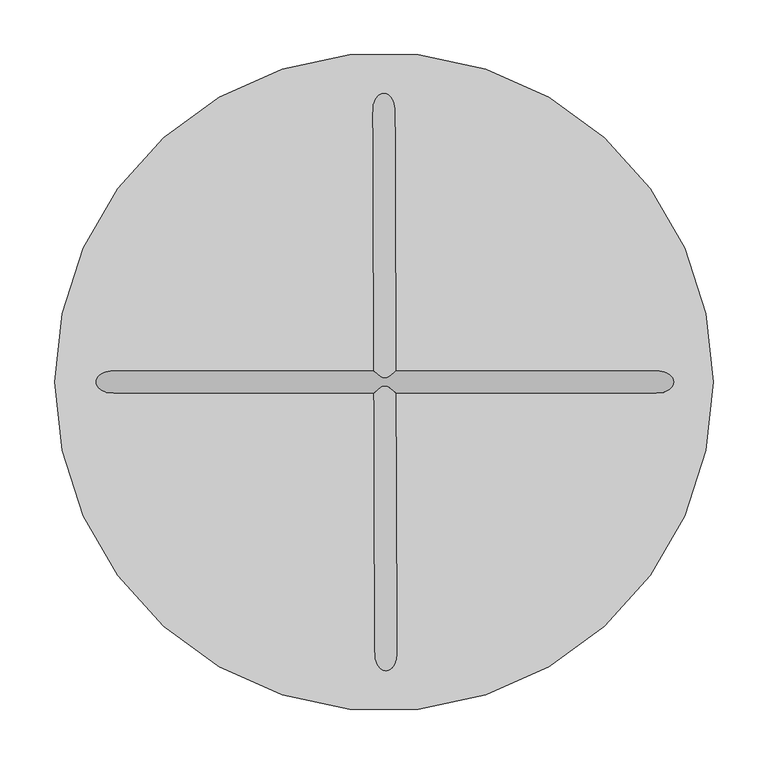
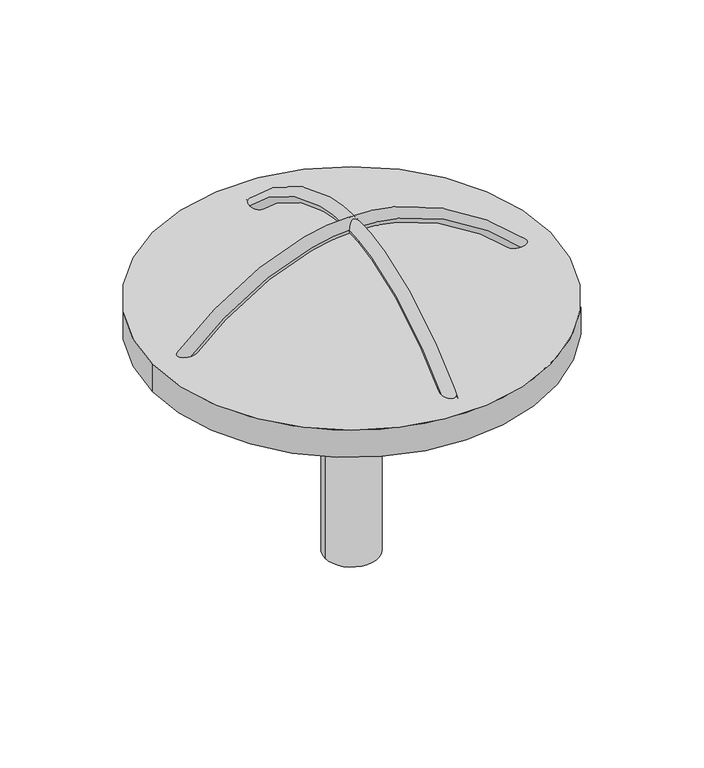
"""IFC4 building model written with IfcOpenShell, lengths in millimetres: furniture geometry, Mobile Ausstattung Spielgerät : Spielgerät."""

from ifc_helpers import new_model, si_unit, point, frame, origin, origin_2d, place, context, project, spatial, polyline, circle_curve, trimmed, segment, composite_curve, outline, extrude, source, transform, mapped, element, save
from ifc_brep_helpers import plane_surface, cylinder_surface, revolved_surface, spline_curve, spline_surface, advanced_brep


def furniture_89e2eb93(model_context):
    return source(origin(), model_context, "Body", "SolidModel", [
        advanced_brep(
        [(0.0, 0.0, 0.0), (-40.0, 0.0, 0.0), (40.0, 0.0, 0.0), (85.4415588, 0.0, 356.5685425), (-85.4415588, 0.0, 356.5685425), (0.0, 0.0, 356.5685425), (40.0, 0.0, 311.1269837), (-40.0, 0.0, 311.1269837)],
        [
            (0, 1),
            (1, 2, circle_curve(frame((0.0, 0.0, 0.0), z_axis=(0.0, 0.0, -1.0), x_axis=(-1.0, 0.0, 0.0)), 40.0)),
            (2, 0),
            (2, 1, circle_curve(frame((0.0, 0.0, 0.0), z_axis=(0.0, 0.0, -1.0), x_axis=(-1.0, 0.0, 0.0)), 40.0)),
            (3, 4, circle_curve(frame((0.0, 0.0, 356.5685425), z_axis=(0.0, 0.0, 1.0), x_axis=(-1.0, 0.0, 0.0)), 85.4415588)),
            (4, 5),
            (5, 3),
            (4, 3, circle_curve(frame((0.0, 0.0, 356.5685425), z_axis=(0.0, 0.0, 1.0), x_axis=(-1.0, 0.0, 0.0)), 85.4415588)),
            (6, 7, circle_curve(frame((0.0, 0.0, 311.1269837), z_axis=(0.0, 0.0, 1.0), x_axis=(-1.0, 0.0, 0.0)), 40.0)),
            (7, 4),
            (3, 6),
            (7, 6, circle_curve(frame((0.0, 0.0, 311.1269837), z_axis=(0.0, 0.0, 1.0), x_axis=(-1.0, 0.0, 0.0)), 40.0)),
            (1, 7),
            (6, 2),
        ],
        [
            plane_surface(frame((0.0, 0.0, 0.0), z_axis=(0.0, 0.0, -1.0), x_axis=(-1.0, 0.0, 0.0))),
            plane_surface(frame((0.0, 0.0, 356.5685425), z_axis=(0.0, 0.0, 1.0), x_axis=(-1.0, 0.0, 0.0))),
            revolved_surface(polyline([(-85.4415588, 0.0, 356.5685425), (-40.0, 0.0, 311.1269837)]), (0.0, 0.0, 2214.3150031), (0.0, 0.0, -1.0)),
            cylinder_surface(frame((0.0, 0.0, 2214.3150031), z_axis=(0.0, 0.0, -1.0), x_axis=(-1.0, 0.0, 0.0)), 40.0),
        ],
        [
            (0, [[1, 2, 3]]),
            (0, [[-3, 4, -1]]),
            (1, [[5, 6, 7]]),
            (1, [[8, -7, -6]]),
            (2, [[9, 10, -5, 11]]),
            (2, [[12, -11, -8, -10]]),
            (3, [[-2, 13, -9, 14]]),
            (3, [[-4, -14, -12, -13]]),
        ],
    ),
        extrude(outline(composite_curve([segment(trimmed(circle_curve(origin_2d(), 300.0), [point((-300.0, 0.0))], [point((300.0, 0.0))], False, "CARTESIAN"), True, "CONTINUOUS"), segment(trimmed(circle_curve(origin_2d(), 300.0), [point((300.0, 0.0))], [point((-300.0, 0.0))], False, "CARTESIAN"), True, "CONTINUOUS")], self_intersect=False)), frame((0.0, 0.0, 356.5685425), z_axis=(0.0, 0.0, 1.0), x_axis=(1.0, 0.0, 0.0)), (0.0, 0.0, 1.0), 43.4314575),
        advanced_brep(
        [(-264.2325395, 10.0, 385.876678), (-264.2325395, -10.0, 385.876678), (265.7674605, 10.0, 385.876678), (265.7674605, -10.0, 385.876678)],
        [
            (0, 1, spline_curve(3, [(-264.2325395, 10.0, 385.876678), (-262.381338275, 10.0, 384.025476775), (-260.53750615, 8.918058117, 382.18164465), (-257.92757285, 5.224077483, 379.57171135), (-257.1614717, 2.61203875, 378.8056102), (-257.1614717, -2.61203875, 378.8056102), (-257.92757285, -5.224077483, 379.57171135), (-260.53750615, -8.918058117, 382.18164465), (-262.381338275, -10.0, 384.025476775), (-264.2325395, -10.0, 385.876678)], [4, 2, 2, 2, 4], [0.0, 0.25, 0.5, 0.75, 1.0])),
            (1, 0, spline_curve(3, [(-264.2325395, -10.0, 385.876678), (-266.083740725, -10.0, 387.727879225), (-267.92757285, -8.918058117, 389.57171135), (-270.53750615, -5.224077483, 392.18164465), (-271.3036073, -2.61203875, 392.9477458), (-271.3036073, 2.61203875, 392.9477458), (-270.53750615, 5.224077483, 392.18164465), (-267.92757285, 8.918058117, 389.57171135), (-266.083740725, 10.0, 387.727879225), (-264.2325395, 10.0, 385.876678)], [4, 2, 2, 2, 4], [0.0, 0.25, 0.5, 0.75, 1.0])),
            (2, 3, spline_curve(3, [(265.7674605, 10.0, 385.876678), (267.618661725, 10.0, 387.727879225), (269.46249385, 8.918058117, 389.57171135), (272.07242715, 5.224077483, 392.18164465), (272.8385283, 2.61203875, 392.9477458), (272.8385283, -2.61203875, 392.9477458), (272.07242715, -5.224077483, 392.18164465), (269.46249385, -8.918058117, 389.57171135), (267.618661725, -10.0, 387.727879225), (265.7674605, -10.0, 385.876678)], [4, 2, 2, 2, 4], [0.0, 0.25, 0.5, 0.75, 1.0])),
            (3, 2, spline_curve(3, [(265.7674605, -10.0, 385.876678), (263.916259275, -10.0, 384.025476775), (262.07242715, -8.918058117, 382.18164465), (259.46249385, -5.224077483, 379.57171135), (258.6963927, -2.61203875, 378.8056102), (258.6963927, 2.61203875, 378.8056102), (259.46249385, 5.224077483, 379.57171135), (262.07242715, 8.918058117, 382.18164465), (263.916259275, 10.0, 384.025476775), (265.7674605, 10.0, 385.876678)], [4, 2, 2, 2, 4], [0.0, 0.25, 0.5, 0.75, 1.0])),
            (0, 2, spline_curve(3, [(-264.2325395, 10.0, 385.876678), (-220.065872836, 10.0, 430.043344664), (-175.899206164, 10.0, 463.168344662), (-109.649206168, 10.0, 496.293344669), (-87.565872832, 10.0, 504.574594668), (-43.399206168, 10.0, 515.616261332), (-21.315872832, 10.0, 518.376678), (22.850793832, 10.0, 518.376678), (44.934127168, 10.0, 515.616261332), (89.100793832, 10.0, 504.574594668), (111.184127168, 10.0, 496.293344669), (177.434127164, 10.0, 463.168344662), (221.600793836, 10.0, 430.043344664), (265.7674605, 10.0, 385.876678)], [4, 2, 2, 2, 2, 2, 4], [0.0, 0.3421858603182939, 0.5132787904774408, 0.6843717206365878, 0.8554646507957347, 1.0265575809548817, 1.3687434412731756])),
            (3, 1, spline_curve(3, [(265.7674605, -10.0, 385.876678), (221.600793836, -10.0, 430.043344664), (177.434127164, -10.0, 463.168344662), (111.184127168, -10.0, 496.293344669), (89.100793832, -10.0, 504.574594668), (44.934127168, -10.0, 515.616261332), (22.850793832, -10.0, 518.376678), (-21.315872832, -10.0, 518.376678), (-43.399206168, -10.0, 515.616261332), (-87.565872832, -10.0, 504.574594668), (-109.649206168, -10.0, 496.293344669), (-175.899206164, -10.0, 463.168344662), (-220.065872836, -10.0, 430.043344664), (-264.2325395, -10.0, 385.876678)], [4, 2, 2, 2, 2, 2, 4], [0.0, 0.3421858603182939, 0.5132787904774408, 0.6843717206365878, 0.8554646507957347, 1.0265575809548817, 1.3687434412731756])),
        ],
        [
            plane_surface(frame((-264.2325395, 0.0, 385.876678), z_axis=(-0.7071067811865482, 0.0, -0.7071067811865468), x_axis=(0.0, -1.0, 0.0))),
            plane_surface(frame((265.7674605, 0.0, 385.876678), z_axis=(0.7071067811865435, 0.0, -0.7071067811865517), x_axis=(0.0, -1.0, 0.0))),
            spline_surface(3, 3, [[(-264.2325395, 10.0, 385.876678), (-262.381338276, 10.0, 384.025476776), (-260.537506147, 8.918058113, 382.181644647), (-257.927572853, 5.224077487, 379.571711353), (-257.1614717, 2.61203875, 378.8056102), (-257.1614717, -2.61203875, 378.8056102), (-257.927572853, -5.224077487, 379.571711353), (-260.537506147, -8.918058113, 382.181644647), (-262.381338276, -10.0, 384.025476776), (-264.2325395, -10.0, 385.876678)], [(-220.065872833, 10.0, 430.043344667), (-218.368938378, 10.0, 428.037876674), (-216.678423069, 8.918058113, 426.040727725), (-214.286655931, 5.224077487, 423.212628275), (-213.584060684, 2.61203875, 422.383021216), (-213.584060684, -2.61203875, 422.383021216), (-214.286655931, -5.224077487, 423.212628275), (-216.678423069, -8.918058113, 426.040727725), (-218.368938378, -10.0, 428.037876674), (-220.065872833, -10.0, 430.043344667)], [(-175.899206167, 10.0, 463.168344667), (-174.416189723, 10.0, 460.98284675), (-172.940049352, 8.918058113, 458.802786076), (-170.847845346, 5.224077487, 455.722221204), (-170.234914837, 2.61203875, 454.816224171), (-170.234914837, -2.61203875, 454.816224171), (-170.847845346, -5.224077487, 455.722221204), (-172.940049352, -8.918058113, 458.802786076), (-174.416189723, -10.0, 460.98284675), (-175.899206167, -10.0, 463.168344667)], [(-109.649206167, 10.0, 496.293344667), (-108.634510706, 10.0, 493.873686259), (-107.623368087, 8.918058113, 491.465291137), (-106.193469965, 5.224077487, 488.053573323), (-105.773147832, 2.61203875, 487.052997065), (-105.773147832, -2.61203875, 487.052997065), (-106.193469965, -5.224077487, 488.053573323), (-107.623368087, -8.918058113, 491.465291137), (-108.634510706, -10.0, 493.873686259), (-109.649206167, -10.0, 496.293344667)], [(-87.565872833, 10.0, 504.574594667), (-86.731713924, 10.0, 502.084568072), (-85.901259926, 8.918058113, 499.60412528), (-84.724345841, 5.224077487, 496.09375493), (-84.379550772, 2.61203875, 495.063082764), (-84.379550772, -2.61203875, 495.063082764), (-84.724345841, -5.224077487, 496.09375493), (-85.901259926, -8.918058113, 499.60412528), (-86.731713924, -10.0, 502.084568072), (-87.565872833, -10.0, 504.574594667)], [(-43.399206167, 10.0, 515.616261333), (-42.963451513, 10.0, 513.026633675), (-42.529047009, 8.918058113, 510.447642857), (-41.915561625, 5.224077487, 506.796415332), (-41.734815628, 2.61203875, 505.724923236), (-41.734815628, -2.61203875, 505.724923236), (-41.915561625, -5.224077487, 506.796415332), (-42.529047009, -8.918058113, 510.447642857), (-42.963451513, -10.0, 513.026633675), (-43.399206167, -10.0, 515.616261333)], [(-21.315872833, 10.0, 518.376678), (-21.097706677, 10.0, 515.758684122), (-20.881688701, 8.918058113, 513.151111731), (-20.573155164, 5.224077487, 509.460108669), (-20.483677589, 2.61203875, 508.376678), (-20.483677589, -2.61203875, 508.376678), (-20.573155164, -5.224077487, 509.460108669), (-20.881688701, -8.918058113, 513.151111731), (-21.097706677, -10.0, 515.758684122), (-21.315872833, -10.0, 518.376678)], [(22.850793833, 10.0, 518.376678), (22.632627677, 10.0, 515.758684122), (22.416609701, 8.918058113, 513.151111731), (22.108076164, 5.224077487, 509.460108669), (22.018598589, 2.61203875, 508.376678), (22.018598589, -2.61203875, 508.376678), (22.108076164, -5.224077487, 509.460108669), (22.416609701, -8.918058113, 513.151111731), (22.632627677, -10.0, 515.758684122), (22.850793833, -10.0, 518.376678)], [(44.934127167, 10.0, 515.616261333), (44.498372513, 10.0, 513.026633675), (44.063968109, 8.918058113, 510.447642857), (43.450482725, 5.224077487, 506.796415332), (43.269736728, 2.61203875, 505.724923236), (43.269736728, -2.61203875, 505.724923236), (43.450482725, -5.224077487, 506.796415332), (44.063968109, -8.918058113, 510.447642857), (44.498372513, -10.0, 513.026633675), (44.934127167, -10.0, 515.616261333)], [(89.100793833, 10.0, 504.574594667), (88.266634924, 10.0, 502.084568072), (87.436181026, 8.918058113, 499.60412528), (86.259266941, 5.224077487, 496.09375493), (85.914471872, 2.61203875, 495.063082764), (85.914471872, -2.61203875, 495.063082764), (86.259266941, -5.224077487, 496.09375493), (87.436181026, -8.918058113, 499.60412528), (88.266634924, -10.0, 502.084568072), (89.100793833, -10.0, 504.574594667)], [(111.184127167, 10.0, 496.293344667), (110.169431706, 10.0, 493.873686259), (109.158289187, 8.918058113, 491.465291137), (107.728391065, 5.224077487, 488.053573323), (107.308068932, 2.61203875, 487.052997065), (107.308068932, -2.61203875, 487.052997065), (107.728391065, -5.224077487, 488.053573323), (109.158289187, -8.918058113, 491.465291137), (110.169431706, -10.0, 493.873686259), (111.184127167, -10.0, 496.293344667)], [(177.434127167, 10.0, 463.168344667), (175.951110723, 10.0, 460.98284675), (174.474970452, 8.918058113, 458.802786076), (172.382766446, 5.224077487, 455.722221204), (171.769835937, 2.61203875, 454.816224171), (171.769835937, -2.61203875, 454.816224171), (172.382766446, -5.224077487, 455.722221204), (174.474970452, -8.918058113, 458.802786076), (175.951110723, -10.0, 460.98284675), (177.434127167, -10.0, 463.168344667)], [(221.600793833, 10.0, 430.043344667), (219.903859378, 10.0, 428.037876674), (218.213344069, 8.918058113, 426.040727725), (215.821576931, 5.224077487, 423.212628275), (215.118981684, 2.61203875, 422.383021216), (215.118981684, -2.61203875, 422.383021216), (215.821576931, -5.224077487, 423.212628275), (218.213344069, -8.918058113, 426.040727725), (219.903859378, -10.0, 428.037876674), (221.600793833, -10.0, 430.043344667)], [(265.7674605, 10.0, 385.876678), (263.916259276, 10.0, 384.025476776), (262.072427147, 8.918058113, 382.181644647), (259.462493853, 5.224077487, 379.571711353), (258.6963927, 2.61203875, 378.8056102), (258.6963927, -2.61203875, 378.8056102), (259.462493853, -5.224077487, 379.571711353), (262.072427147, -8.918058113, 382.181644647), (263.916259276, -10.0, 384.025476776), (265.7674605, -10.0, 385.876678)]], [4, 2, 2, 2, 2, 2, 4], [4, 2, 2, 2, 4], [0.0, 0.3421858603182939, 0.5132787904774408, 0.6843717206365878, 0.8554646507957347, 1.0265575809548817, 1.3687434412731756], [0.0, 0.25, 0.5, 0.75, 1.0]),
            spline_surface(3, 3, [[(-264.2325395, -10.0, 385.876678), (-266.083740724, -10.0, 387.727879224), (-267.927572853, -8.918058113, 389.571711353), (-270.537506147, -5.224077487, 392.181644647), (-271.3036073, -2.61203875, 392.9477458), (-271.3036073, 2.61203875, 392.9477458), (-270.537506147, 5.224077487, 392.181644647), (-267.927572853, 8.918058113, 389.571711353), (-266.083740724, 10.0, 387.727879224), (-264.2325395, 10.0, 385.876678)], [(-220.065872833, -10.0, 430.043344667), (-221.762807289, -10.0, 432.04881266), (-223.453322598, -8.918058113, 434.045961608), (-225.845089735, -5.224077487, 436.874061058), (-226.547684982, -2.61203875, 437.703668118), (-226.547684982, 2.61203875, 437.703668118), (-225.845089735, 5.224077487, 436.874061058), (-223.453322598, 8.918058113, 434.045961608), (-221.762807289, 10.0, 432.04881266), (-220.065872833, 10.0, 430.043344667)], [(-175.899206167, -10.0, 463.168344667), (-177.38222261, -10.0, 465.353842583), (-178.858362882, -8.918058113, 467.533903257), (-180.950566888, -5.224077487, 470.614468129), (-181.563497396, -2.61203875, 471.520465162), (-181.563497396, 2.61203875, 471.520465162), (-180.950566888, 5.224077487, 470.614468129), (-178.858362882, 8.918058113, 467.533903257), (-177.38222261, 10.0, 465.353842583), (-175.899206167, 10.0, 463.168344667)], [(-109.649206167, -10.0, 496.293344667), (-110.663901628, -10.0, 498.713003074), (-111.675044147, -8.918058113, 501.121398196), (-113.104942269, -5.224077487, 504.53311601), (-113.525264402, -2.61203875, 505.533692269), (-113.525264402, 2.61203875, 505.533692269), (-113.104942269, 5.224077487, 504.53311601), (-111.675044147, 8.918058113, 501.121398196), (-110.663901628, 10.0, 498.713003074), (-109.649206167, 10.0, 496.293344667)], [(-87.565872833, -10.0, 504.574594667), (-88.400031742, -10.0, 507.064621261), (-89.230485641, -8.918058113, 509.545064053), (-90.407399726, -5.224077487, 513.055434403), (-90.752194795, -2.61203875, 514.08610657), (-90.752194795, 2.61203875, 514.08610657), (-90.407399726, 5.224077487, 513.055434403), (-89.230485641, 8.918058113, 509.545064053), (-88.400031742, 10.0, 507.064621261), (-87.565872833, 10.0, 504.574594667)], [(-43.399206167, -10.0, 515.616261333), (-43.834960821, -10.0, 518.205888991), (-44.269365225, -8.918058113, 520.784879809), (-44.882850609, -5.224077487, 524.436107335), (-45.063596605, -2.61203875, 525.50759943), (-45.063596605, 2.61203875, 525.50759943), (-44.882850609, 5.224077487, 524.436107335), (-44.269365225, 8.918058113, 520.784879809), (-43.834960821, 10.0, 518.205888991), (-43.399206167, 10.0, 515.616261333)], [(-21.315872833, -10.0, 518.376678), (-21.53403899, -10.0, 520.994671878), (-21.750056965, -8.918058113, 523.602244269), (-22.058590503, -5.224077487, 527.293247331), (-22.148068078, -2.61203875, 528.376678), (-22.148068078, 2.61203875, 528.376678), (-22.058590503, 5.224077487, 527.293247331), (-21.750056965, 8.918058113, 523.602244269), (-21.53403899, 10.0, 520.994671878), (-21.315872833, 10.0, 518.376678)], [(22.850793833, -10.0, 518.376678), (23.06895999, -10.0, 520.994671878), (23.284977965, -8.918058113, 523.602244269), (23.593511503, -5.224077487, 527.293247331), (23.682989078, -2.61203875, 528.376678), (23.682989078, 2.61203875, 528.376678), (23.593511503, 5.224077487, 527.293247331), (23.284977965, 8.918058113, 523.602244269), (23.06895999, 10.0, 520.994671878), (22.850793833, 10.0, 518.376678)], [(44.934127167, -10.0, 515.616261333), (45.369881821, -10.0, 518.205888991), (45.804286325, -8.918058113, 520.784879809), (46.417771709, -5.224077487, 524.436107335), (46.598517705, -2.61203875, 525.50759943), (46.598517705, 2.61203875, 525.50759943), (46.417771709, 5.224077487, 524.436107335), (45.804286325, 8.918058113, 520.784879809), (45.369881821, 10.0, 518.205888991), (44.934127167, 10.0, 515.616261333)], [(89.100793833, -10.0, 504.574594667), (89.934952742, -10.0, 507.064621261), (90.765406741, -8.918058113, 509.545064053), (91.942320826, -5.224077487, 513.055434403), (92.287115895, -2.61203875, 514.08610657), (92.287115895, 2.61203875, 514.08610657), (91.942320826, 5.224077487, 513.055434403), (90.765406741, 8.918058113, 509.545064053), (89.934952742, 10.0, 507.064621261), (89.100793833, 10.0, 504.574594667)], [(111.184127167, -10.0, 496.293344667), (112.198822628, -10.0, 498.713003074), (113.209965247, -8.918058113, 501.121398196), (114.639863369, -5.224077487, 504.53311601), (115.060185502, -2.61203875, 505.533692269), (115.060185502, 2.61203875, 505.533692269), (114.639863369, 5.224077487, 504.53311601), (113.209965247, 8.918058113, 501.121398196), (112.198822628, 10.0, 498.713003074), (111.184127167, 10.0, 496.293344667)], [(177.434127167, -10.0, 463.168344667), (178.91714361, -10.0, 465.353842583), (180.393283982, -8.918058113, 467.533903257), (182.485487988, -5.224077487, 470.614468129), (183.098418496, -2.61203875, 471.520465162), (183.098418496, 2.61203875, 471.520465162), (182.485487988, 5.224077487, 470.614468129), (180.393283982, 8.918058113, 467.533903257), (178.91714361, 10.0, 465.353842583), (177.434127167, 10.0, 463.168344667)], [(221.600793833, -10.0, 430.043344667), (223.297728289, -10.0, 432.04881266), (224.988243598, -8.918058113, 434.045961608), (227.380010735, -5.224077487, 436.874061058), (228.082605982, -2.61203875, 437.703668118), (228.082605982, 2.61203875, 437.703668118), (227.380010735, 5.224077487, 436.874061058), (224.988243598, 8.918058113, 434.045961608), (223.297728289, 10.0, 432.04881266), (221.600793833, 10.0, 430.043344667)], [(265.7674605, -10.0, 385.876678), (267.618661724, -10.0, 387.727879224), (269.462493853, -8.918058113, 389.571711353), (272.072427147, -5.224077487, 392.181644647), (272.8385283, -2.61203875, 392.9477458), (272.8385283, 2.61203875, 392.9477458), (272.072427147, 5.224077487, 392.181644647), (269.462493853, 8.918058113, 389.571711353), (267.618661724, 10.0, 387.727879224), (265.7674605, 10.0, 385.876678)]], [4, 2, 2, 2, 2, 2, 4], [4, 2, 2, 2, 4], [0.0, 0.3421858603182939, 0.5132787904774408, 0.6843717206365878, 0.8554646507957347, 1.0265575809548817, 1.3687434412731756], [0.0, 0.25, 0.5, 0.75, 1.0]),
        ],
        [
            (0, [[1, 2]]),
            (1, [[3, 4]]),
            (2, [[-1, 5, -4, 6]]),
            (3, [[-2, -6, -3, -5]]),
        ],
    ),
        advanced_brep(
        [(-8.2571013, -265.0978635, 385.876678), (11.7427633, -265.0242506, 385.876678), (-10.2078422, 264.8985465, 385.876678), (9.7920223, 264.9721594, 385.876678)],
        [
            (0, 1, spline_curve(3, [(-8.2571013, -265.0978635, 385.876678), (-8.263914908, -263.246674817, 384.025476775), (-7.188766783, -261.398872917, 382.18164465), (-3.504417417, -258.775361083, 379.57171135), (-0.895216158, -257.999651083, 378.8056102), (4.328825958, -257.980423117, 378.8056102), (6.943666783, -258.736905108, 379.57171135), (10.647228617, -261.333224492, 382.18164465), (11.735949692, -263.173061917, 384.025476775), (11.7427633, -265.0242506, 385.876678)], [4, 2, 2, 2, 4], [0.0, 0.25, 0.5, 0.75, 1.0])),
            (1, 0, spline_curve(3, [(11.7427633, -265.0242506, 385.876678), (11.749576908, -266.875439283, 387.727879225), (10.674428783, -268.723241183, 389.57171135), (6.990079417, -271.346753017, 392.18164465), (4.380878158, -272.122463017, 392.9477458), (-0.843163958, -272.141690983, 392.9477458), (-3.458004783, -271.385208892, 392.18164465), (-7.161566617, -268.788889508, 389.57171135), (-8.250287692, -266.949052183, 387.727879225), (-8.2571013, -265.0978635, 385.876678)], [4, 2, 2, 2, 4], [0.0, 0.25, 0.5, 0.75, 1.0])),
            (2, 3, spline_curve(3, [(-10.2078422, 264.8985465, 385.876678), (-10.214655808, 266.749735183, 387.727879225), (-9.139507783, 268.597537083, 389.57171135), (-5.455158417, 271.221048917, 392.18164465), (-2.845957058, 271.996758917, 392.9477458), (2.378085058, 272.015986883, 392.9477458), (4.992925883, 271.259504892, 392.18164465), (8.696487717, 268.663185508, 389.57171135), (9.785208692, 266.823348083, 387.727879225), (9.7920223, 264.9721594, 385.876678)], [4, 2, 2, 2, 4], [0.0, 0.25, 0.5, 0.75, 1.0])),
            (3, 2, spline_curve(3, [(9.7920223, 264.9721594, 385.876678), (9.798835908, 263.120970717, 384.025476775), (8.723687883, 261.273168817, 382.18164465), (5.039338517, 258.649656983, 379.57171135), (2.430137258, 257.873946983, 378.8056102), (-2.793904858, 257.854719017, 378.8056102), (-5.408745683, 258.611201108, 379.57171135), (-9.112307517, 261.207520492, 382.18164465), (-10.201028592, 263.047357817, 384.025476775), (-10.2078422, 264.8985465, 385.876678)], [4, 2, 2, 2, 4], [0.0, 0.25, 0.5, 0.75, 1.0])),
            (0, 2, spline_curve(3, [(-8.2571013, -265.0978635, 385.876678), (-8.419663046, -220.931495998, 430.043344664), (-8.582224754, -176.765128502, 463.168344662), (-8.826067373, -110.515577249, 496.293344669), (-8.907348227, -88.432393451, 504.574594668), (-9.069909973, -44.266025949, 515.616261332), (-9.151190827, -22.182842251, 518.376678), (-9.313752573, 21.983525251, 518.376678), (-9.395033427, 44.066709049, 515.616261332), (-9.557595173, 88.233076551, 504.574594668), (-9.638876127, 110.316260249, 496.293344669), (-9.882718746, 176.565811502, 463.168344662), (-10.045280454, 220.732178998, 430.043344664), (-10.2078422, 264.8985465, 385.876678)], [4, 2, 2, 2, 2, 2, 4], [0.0, 0.3421858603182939, 0.5132787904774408, 0.6843717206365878, 0.8554646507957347, 1.0265575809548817, 1.3687434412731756])),
            (3, 1, spline_curve(3, [(9.7920223, 264.9721594, 385.876678), (9.954584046, 220.805791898, 430.043344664), (10.117145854, 176.639424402, 463.168344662), (10.360988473, 110.389873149, 496.293344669), (10.442269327, 88.306689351, 504.574594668), (10.604831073, 44.140321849, 515.616261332), (10.686111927, 22.057138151, 518.376678), (10.848673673, -22.109229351, 518.376678), (10.929954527, -44.192413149, 515.616261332), (11.092516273, -88.358780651, 504.574594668), (11.173797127, -110.441964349, 496.293344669), (11.417639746, -176.691515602, 463.168344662), (11.580201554, -220.857883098, 430.043344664), (11.7427633, -265.0242506, 385.876678)], [4, 2, 2, 2, 2, 2, 4], [0.0, 0.3421858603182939, 0.5132787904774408, 0.6843717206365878, 0.8554646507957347, 1.0265575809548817, 1.3687434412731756])),
        ],
        [
            plane_surface(frame((1.742831, -265.061057, 385.876678), z_axis=(0.002602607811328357, -0.7071019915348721, -0.7071067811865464), x_axis=(0.9999932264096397, 0.00368064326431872, 0.0))),
            plane_surface(frame((-0.2079099, 264.935353, 385.876678), z_axis=(-0.0026026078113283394, 0.7071019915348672, -0.7071067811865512), x_axis=(0.9999932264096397, 0.00368064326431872, 0.0))),
            spline_surface(3, 3, [[(-8.2571013, -265.0978635, 385.876678), (-8.263914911, -263.246674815, 384.025476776), (-7.188766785, -261.39887292, 382.181644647), (-3.504417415, -258.77536108, 379.571711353), (-0.895216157, -257.999651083, 378.8056102), (4.328825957, -257.980423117, 378.8056102), (6.943666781, -258.736905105, 379.571711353), (10.647228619, -261.333224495, 382.181644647), (11.735949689, -263.173061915, 384.025476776), (11.7427633, -265.0242506, 385.876678)], [(-8.419663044, -220.931496, 430.043344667), (-8.425908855, -219.234573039, 428.037876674), (-7.350196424, -217.540086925, 426.040727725), (-3.665044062, -215.134739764, 423.212628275), (-1.055609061, -214.422535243, 422.383021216), (4.168433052, -214.403307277, 422.383021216), (6.783040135, -215.096283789, 423.212628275), (10.48579898, -217.4744385, 426.040727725), (11.573955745, -219.160960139, 428.037876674), (11.580201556, -220.8578831, 430.043344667)], [(-8.582224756, -176.7651285, 463.168344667), (-8.58768321, -175.282122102, 460.98284675), (-7.511181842, -173.802009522, 458.802786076), (-3.824926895, -171.696223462, 455.722221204), (-1.215161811, -171.073683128, 454.816224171), (4.008880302, -171.054455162, 454.816224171), (6.623157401, -171.657767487, 455.722221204), (10.324813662, -173.736361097, 458.802786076), (11.41218129, -175.208509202, 460.98284675), (11.417639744, -176.6915156, 463.168344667)], [(-8.826067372, -110.51557725, 496.293344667), (-8.829802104, -109.500888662, 493.873686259), (-7.751589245, -108.485770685, 491.465291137), (-4.062896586, -107.042286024, 488.053573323), (-1.45242258, -106.61235276, 487.052997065), (3.771619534, -106.593124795, 487.052997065), (6.38518771, -107.003830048, 488.053573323), (10.084406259, -108.42012226, 491.465291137), (11.170062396, -109.427275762, 493.873686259), (11.173797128, -110.44196435, 496.293344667)], [(-8.907348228, -88.43239345, 504.574594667), (-8.910418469, -87.598240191, 502.084568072), (-7.831540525, -86.763809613, 499.60412528), (-4.141916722, -85.573307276, 496.09375493), (-1.531164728, -85.218900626, 495.063082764), (3.692877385, -85.19967266, 495.063082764), (6.306167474, -85.534851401, 496.09375493), (10.004454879, -86.698161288, 499.60412528), (11.089446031, -87.524627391, 502.084568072), (11.092516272, -88.35878065, 504.574594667)], [(-9.069909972, -44.26602595, 515.616261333), (-9.07151383, -43.830274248, 513.026633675), (-7.991178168, -43.391890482, 510.447642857), (-4.299480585, -42.764813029, 506.796415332), (-1.688124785, -42.57445434, 505.724923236), (3.535917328, -42.555226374, 505.724923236), (6.148603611, -42.726357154, 506.796415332), (9.844817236, -43.326242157, 510.447642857), (10.92835067, -43.756661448, 513.026633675), (10.929954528, -44.19241315, 515.616261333)], [(-9.151190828, -22.18284225, 518.376678), (-9.15199382, -21.964677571, 515.758684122), (-8.070854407, -21.744678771, 513.151111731), (-4.378034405, -21.422551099, 509.460108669), (-1.766342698, -21.323460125, 508.376678), (3.457699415, -21.30423216, 508.376678), (6.070049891, -21.384095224, 509.460108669), (9.765141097, -21.679030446, 513.151111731), (10.84787068, -21.891064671, 515.758684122), (10.848673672, -22.10922935, 518.376678)], [(-9.313752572, 21.98352525, 518.376678), (-9.31294958, 21.765360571, 515.758684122), (-8.230219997, 21.553326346, 513.151111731), (-4.535128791, 21.258391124, 509.460108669), (-1.922778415, 21.17852816, 508.376678), (3.301263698, 21.197756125, 508.376678), (5.912955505, 21.296846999, 509.460108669), (9.605775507, 21.618974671, 513.151111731), (10.68691492, 21.838973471, 515.758684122), (10.686111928, 22.05713815, 518.376678)], [(-9.395033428, 44.06670905, 515.616261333), (-9.39342957, 43.630957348, 513.026633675), (-8.309896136, 43.200538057, 510.447642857), (-4.613682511, 42.600653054, 506.796415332), (-2.000996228, 42.429522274, 505.724923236), (3.223045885, 42.44875024, 505.724923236), (5.834401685, 42.639109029, 506.796415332), (9.526099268, 43.266186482, 510.447642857), (10.60643493, 43.704570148, 513.026633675), (10.604831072, 44.14032185, 515.616261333)], [(-9.557595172, 88.23307655, 504.574594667), (-9.554524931, 87.398923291, 502.084568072), (-8.469533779, 86.572457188, 499.60412528), (-4.771246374, 85.409147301, 496.09375493), (-2.157956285, 85.07396856, 495.063082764), (3.066085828, 85.093196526, 495.063082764), (5.676837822, 85.447603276, 496.09375493), (9.366461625, 86.638105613, 499.60412528), (10.445339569, 87.472536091, 502.084568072), (10.442269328, 88.30668935, 504.574594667)], [(-9.638876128, 110.31626025, 496.293344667), (-9.635141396, 109.301571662, 493.873686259), (-8.549485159, 108.29441816, 491.465291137), (-4.85026661, 106.878125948, 488.053573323), (-2.236698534, 106.467420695, 487.052997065), (2.98734358, 106.48664866, 487.052997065), (5.597817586, 106.916581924, 488.053573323), (9.286510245, 108.360066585, 491.465291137), (10.364723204, 109.375184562, 493.873686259), (10.360988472, 110.38987315, 496.293344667)], [(-9.882718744, 176.5658115, 463.168344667), (-9.87726029, 175.082805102, 460.98284675), (-8.789892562, 173.610656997, 458.802786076), (-5.088236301, 171.532063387, 455.722221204), (-2.473959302, 170.928751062, 454.816224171), (2.750082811, 170.947979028, 454.816224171), (5.359847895, 171.570519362, 455.722221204), (9.046102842, 173.676305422, 458.802786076), (10.12260431, 175.156418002, 460.98284675), (10.117145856, 176.6394244, 463.168344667)], [(-10.045280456, 220.732179, 430.043344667), (-10.039034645, 219.035256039, 428.037876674), (-8.95087788, 217.3487345, 426.040727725), (-5.248119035, 214.970579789, 423.212628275), (-2.633511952, 214.277603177, 422.383021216), (2.590530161, 214.296831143, 422.383021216), (5.199965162, 215.009035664, 423.212628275), (8.885117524, 217.414382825, 426.040727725), (9.960829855, 219.108868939, 428.037876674), (9.954584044, 220.8057919, 430.043344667)], [(-10.2078422, 264.8985465, 385.876678), (-10.201028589, 263.047357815, 384.025476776), (-9.112307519, 261.207520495, 382.181644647), (-5.408745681, 258.611201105, 379.571711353), (-2.793904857, 257.854719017, 378.8056102), (2.430137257, 257.873946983, 378.8056102), (5.039338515, 258.64965698, 379.571711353), (8.723687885, 261.27316882, 382.181644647), (9.798835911, 263.120970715, 384.025476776), (9.7920223, 264.9721594, 385.876678)]], [4, 2, 2, 2, 2, 2, 4], [4, 2, 2, 2, 4], [0.0, 0.3421858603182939, 0.5132787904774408, 0.6843717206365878, 0.8554646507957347, 1.0265575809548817, 1.3687434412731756], [0.0, 0.25, 0.5, 0.75, 1.0]),
            spline_surface(3, 3, [[(11.7427633, -265.0242506, 385.876678), (11.749576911, -266.875439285, 387.727879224), (10.674428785, -268.72324118, 389.571711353), (6.990079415, -271.34675302, 392.181644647), (4.380878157, -272.122463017, 392.9477458), (-0.843163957, -272.141690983, 392.9477458), (-3.458004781, -271.385208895, 392.181644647), (-7.161566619, -268.788889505, 389.571711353), (-8.250287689, -266.949052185, 387.727879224), (-8.2571013, -265.0978635, 385.876678)], [(11.580201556, -220.8578831, 430.043344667), (11.586447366, -222.554806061, 432.04881266), (10.510734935, -224.249292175, 434.045961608), (6.825582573, -226.654639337, 436.874061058), (4.216147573, -227.366843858, 437.703668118), (-1.007894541, -227.386071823, 437.703668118), (-3.622501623, -226.693095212, 436.874061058), (-7.325260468, -224.3149405, 434.045961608), (-8.413417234, -222.628418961, 432.04881266), (-8.419663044, -220.931496, 430.043344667)], [(11.417639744, -176.6915156, 463.168344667), (11.423098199, -178.174521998, 465.353842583), (10.34659683, -179.654634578, 467.533903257), (6.660341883, -181.760420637, 470.614468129), (4.050576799, -182.382960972, 471.520465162), (-1.173465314, -182.402188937, 471.520465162), (-3.787742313, -181.798876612, 470.614468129), (-7.489398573, -179.720283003, 467.533903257), (-8.576766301, -178.248134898, 465.353842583), (-8.582224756, -176.7651285, 463.168344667)], [(11.173797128, -110.44196435, 496.293344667), (11.17753186, -111.456652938, 498.713003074), (10.099319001, -112.471770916, 501.121398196), (6.410626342, -113.915255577, 504.53311601), (3.800152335, -114.34518884, 505.533692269), (-1.423889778, -114.364416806, 505.533692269), (-4.037457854, -113.953711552, 504.53311601), (-7.736676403, -112.53741934, 501.121398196), (-8.82233264, -111.530265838, 498.713003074), (-8.826067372, -110.51557725, 496.293344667)], [(11.092516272, -88.35878065, 504.574594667), (11.095586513, -89.192933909, 507.064621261), (10.016708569, -90.027364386, 509.545064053), (6.327084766, -91.217866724, 513.055434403), (3.716332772, -91.572273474, 514.08610657), (-1.507709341, -91.59150144, 514.08610657), (-4.12099943, -91.256322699, 513.055434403), (-7.819286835, -90.093012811, 509.545064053), (-8.904277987, -89.266546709, 507.064621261), (-8.907348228, -88.43239345, 504.574594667)], [(10.929954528, -44.19241315, 515.616261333), (10.931558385, -44.628164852, 518.205888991), (9.851222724, -45.066548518, 520.784879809), (6.159525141, -45.693625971, 524.436107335), (3.548169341, -45.88398476, 525.50759943), (-1.675872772, -45.903212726, 525.50759943), (-4.288559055, -45.732081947, 524.436107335), (-7.98477268, -45.132196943, 520.784879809), (-9.068306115, -44.701777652, 518.205888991), (-9.069909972, -44.26602595, 515.616261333)], [(10.848673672, -22.10922935, 518.376678), (10.849476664, -22.327394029, 520.994671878), (9.768337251, -22.547392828, 523.602244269), (6.075517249, -22.869520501, 527.293247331), (3.463825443, -22.968611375, 528.376678), (-1.760216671, -22.98783934, 528.376678), (-4.372567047, -22.907976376, 527.293247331), (-8.067658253, -22.613041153, 523.602244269), (-9.150387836, -22.401006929, 520.994671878), (-9.151190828, -22.18284225, 518.376678)], [(10.686111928, 22.05713815, 518.376678), (10.685308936, 22.275302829, 520.994671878), (9.602579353, 22.487337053, 523.602244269), (5.907488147, 22.782272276, 527.293247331), (3.295137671, 22.86213534, 528.376678), (-1.928904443, 22.842907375, 528.376678), (-4.540596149, 22.743816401, 527.293247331), (-8.233416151, 22.421688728, 523.602244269), (-9.314555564, 22.201689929, 520.994671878), (-9.313752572, 21.98352525, 518.376678)], [(10.604831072, 44.14032185, 515.616261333), (10.603227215, 44.576073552, 518.205888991), (9.51969378, 45.006492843, 520.784879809), (5.823480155, 45.606377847, 524.436107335), (3.210793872, 45.777508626, 525.50759943), (-2.013248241, 45.75828066, 525.50759943), (-4.624604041, 45.567921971, 524.436107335), (-8.316301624, 44.940844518, 520.784879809), (-9.396637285, 44.502460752, 518.205888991), (-9.395033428, 44.06670905, 515.616261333)], [(10.442269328, 88.30668935, 504.574594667), (10.439199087, 89.140842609, 507.064621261), (9.354207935, 89.967308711, 509.545064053), (5.65592053, 91.130618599, 513.055434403), (3.042630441, 91.46579734, 514.08610657), (-2.181411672, 91.446569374, 514.08610657), (-4.792163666, 91.092162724, 513.055434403), (-8.481787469, 89.901660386, 509.545064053), (-9.560665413, 89.067229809, 507.064621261), (-9.557595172, 88.23307655, 504.574594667)], [(10.360988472, 110.38987315, 496.293344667), (10.35725374, 111.404561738, 498.713003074), (9.271597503, 112.41171524, 501.121398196), (5.572378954, 113.828007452, 504.53311601), (2.958810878, 114.238712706, 505.533692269), (-2.265231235, 114.21948474, 505.533692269), (-4.875705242, 113.789551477, 504.53311601), (-8.564397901, 112.346066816, 501.121398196), (-9.64261086, 111.330948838, 498.713003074), (-9.638876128, 110.31626025, 496.293344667)], [(10.117145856, 176.6394244, 463.168344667), (10.111687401, 178.122430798, 465.353842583), (9.024319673, 179.594578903, 467.533903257), (5.322663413, 181.673172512, 470.614468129), (2.708386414, 182.276484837, 471.520465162), (-2.515655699, 182.257256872, 471.520465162), (-5.125420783, 181.634716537, 470.614468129), (-8.81167573, 179.528930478, 467.533903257), (-9.888177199, 178.048817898, 465.353842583), (-9.882718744, 176.5658115, 463.168344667)], [(9.954584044, 220.8057919, 430.043344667), (9.948338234, 222.502714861, 432.04881266), (8.860181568, 224.1892365, 434.045961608), (5.157422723, 226.567391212, 436.874061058), (2.542815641, 227.260367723, 437.703668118), (-2.681226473, 227.241139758, 437.703668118), (-5.290661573, 226.528935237, 436.874061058), (-8.975813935, 224.123588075, 434.045961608), (-10.051526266, 222.429101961, 432.04881266), (-10.045280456, 220.732179, 430.043344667)], [(9.7920223, 264.9721594, 385.876678), (9.785208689, 266.823348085, 387.727879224), (8.696487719, 268.663185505, 389.571711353), (4.992925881, 271.259504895, 392.181644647), (2.378085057, 272.015986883, 392.9477458), (-2.845957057, 271.996758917, 392.9477458), (-5.455158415, 271.22104892, 392.181644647), (-9.139507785, 268.59753708, 389.571711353), (-10.214655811, 266.749735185, 387.727879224), (-10.2078422, 264.8985465, 385.876678)]], [4, 2, 2, 2, 2, 2, 4], [4, 2, 2, 2, 4], [0.0, 0.3421858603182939, 0.5132787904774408, 0.6843717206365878, 0.8554646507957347, 1.0265575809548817, 1.3687434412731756], [0.0, 0.25, 0.5, 0.75, 1.0]),
        ],
        [
            (0, [[1, 2]]),
            (1, [[3, 4]]),
            (2, [[-1, 5, -4, 6]]),
            (3, [[-2, -6, -3, -5]]),
        ],
    ),
    ])


if __name__ == "__main__":
    model = new_model("IFC4")
    model_context = context("Model", 3, world=origin())
    ifc_project = project(units=[si_unit("LENGTHUNIT", "METRE", prefix="MILLI")], contexts=[model_context])
    site = spatial("IfcSite", under=ifc_project)
    building = spatial("IfcBuilding", under=site)
    placement = place(None, origin())
    furniture_shape = furniture_89e2eb93(model_context)
    element("IfcFurniture", 1, ObjectType="Mobile Ausstattung Spielgerät : Spielgerät", at=placement, inside=building, context=model_context, shape_type="MappedRepresentation", body=[
        mapped(furniture_shape, transform((0.0, 0.0, 0.0), x_axis=(1.0, 0.0, 0.0), y_axis=(0.0, 1.0, 0.0), z_axis=(0.0, 0.0, 1.0))),
    ])
    save(model, "model.ifc")
